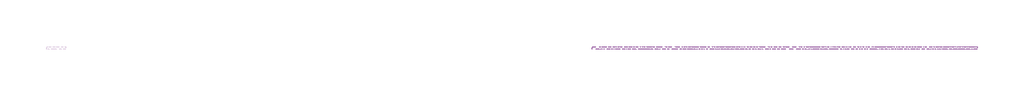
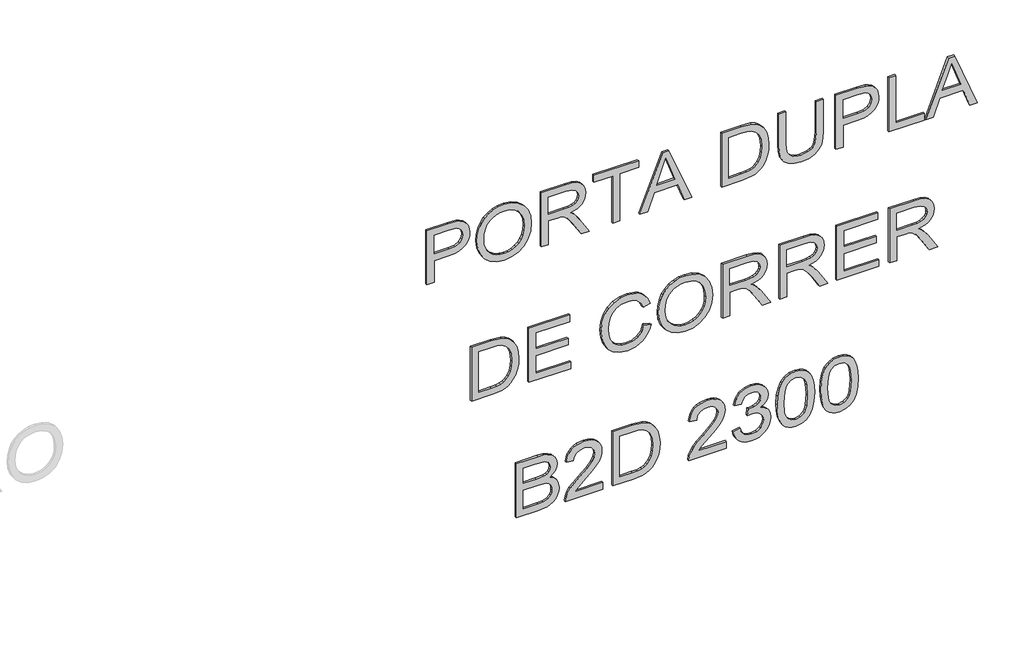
# One storey, part 8 of 13: 1 proxy.
"""IFC4 building model written with IfcOpenShell, lengths in millimetres."""

from ifc_helpers import new_model, si_unit, frame, origin, place, context, project, spatial, polyline, outline, extrude, element, save

model = new_model("IFC4")

# Units and contexts
model_context = context("Model", 3, world=origin())
ifc_project = project(units=[si_unit("LENGTHUNIT", "METRE", prefix="MILLI")], contexts=[model_context])

# Site, building, storey
site = spatial("IfcSite", under=ifc_project)
building = spatial("IfcBuilding", under=site)
storey = spatial("IfcBuildingStorey", under=building, Name="02 - Marelli - Planta Baixa - Portas", Elevation=-12000.0)

# Proxy
placement = place(None, origin())
element("IfcBuildingElementProxy", 1, Name="300mm Arial", ObjectType="300mm Arial", at=placement, inside=storey, context=model_context, shape_type="SweptSolid", body=[
    extrude(outline(polyline([(-5683.1381416, 42436.452421), (-5683.1381416, 42474.1235373), (-5560.7070137, 42474.1235373), (-5560.7070137, 42550.7165687), (-5559.0423476, 42579.9149028), (-5554.0483495, 42604.2342019), (-5545.7250194, 42623.6744661), (-5534.0723572, 42638.2356953), (-5520.0146665, 42648.8421931), (-5504.4762507, 42656.4182629), (-5487.4571099, 42660.9639049), (-5468.9572441, 42662.4791188), (-5447.5005267, 42660.2350386), (-5427.8648252, 42653.5027981), (-5411.2181649, 42643.0825406), (-5398.7285712, 42629.7744094), (-5390.0005708, 42613.2473108), (-5384.6386908, 42593.1701509), (-5381.7692112, 42548.1413947), (-5381.7692112, 42436.452421), (-5683.1381416, 42436.452421)]), holes=[polyline([(-5523.0358973, 42474.1235373), (-5419.4403275, 42474.1235373), (-5419.4403275, 42552.0409439), (-5422.0155015, 42589.7120602), (-5428.3430718, 42603.9398963), (-5439.085226, 42615.132706), (-5453.3590475, 42622.3891784), (-5470.2816192, 42624.8080025), (-5492.556874, 42620.7061183), (-5509.2035343, 42608.4004655), (-5519.5778066, 42586.3275458), (-5523.0358973, 42552.9238607), (-5523.0358973, 42474.1235373)])]), frame((0.0, 8778.3159498, 0.0), z_axis=(0.0, 1.0, 0.0), x_axis=(0.0, 0.0, 1.0)), (0.0, 0.0, 1.0), 10.0),
    extrude(outline(polyline([(-5536.426802, 42700.1502351), (-5574.971638, 42704.4544545), (-5611.4379408, 42717.3671125), (-5643.1309747, 42738.6306918), (-5667.3560041, 42767.987675), (-5682.7242744, 42803.6354404), (-5687.8470312, 42843.771366), (-5683.211718, 42881.5804381), (-5669.3057786, 42916.7223657), (-5646.3867303, 42946.6863542), (-5614.7120905, 42968.961609), (-5576.2500279, 42982.784775), (-5532.9687112, 42987.392497), (-5490.2576116, 42983.0147012), (-5452.3289779, 42969.881314), (-5420.7095204, 42948.3970055), (-5396.9259494, 42918.9664459), (-5382.0267286, 42883.5210156), (-5377.0603217, 42843.9920952), (-5379.7044735, 42813.7016115), (-5387.636929, 42786.3265925), (-5400.8576882, 42761.8670383), (-5419.3667511, 42740.322949), (-5442.5479153, 42722.7473867), (-5469.7849785, 42710.1934136), (-5501.0779408, 42702.6610297), (-5536.426802, 42700.1502351)]), holes=[polyline([(-5536.794684, 42737.8213514), (-5506.2581791, 42739.7849216), (-5480.4259653, 42745.675632), (-5459.2980424, 42755.4934828), (-5442.8744106, 42769.2384738), (-5430.5618601, 42785.7057916), (-5421.7671811, 42803.6906227), (-5416.4903738, 42823.1929669), (-5414.731438, 42844.2128244), (-5418.3826668, 42873.3766696), (-5429.3363532, 42899.5054883), (-5446.9303096, 42921.1645408), (-5470.5023484, 42936.9190872), (-5499.3259028, 42946.5208073), (-5532.6744056, 42949.7213807), (-5559.212493, 42947.8520803), (-5582.5408101, 42942.2441791), (-5602.6593567, 42932.8976772), (-5619.5681329, 42919.8125744), (-5632.9590375, 42903.830401), (-5642.5239694, 42885.7926869), (-5648.2629285, 42865.6994322), (-5650.1759149, 42843.5506368), (-5648.2813226, 42821.774322), (-5642.5975458, 42801.915592), (-5633.1245844, 42783.974447), (-5619.8624385, 42767.9508868), (-5603.3031502, 42754.7692151), (-5583.9387616, 42745.3537353), (-5561.7692729, 42739.7044474), (-5536.794684, 42737.8213514)])]), frame((0.0, 8778.3159498, 0.0), z_axis=(0.0, 1.0, 0.0), x_axis=(0.0, 0.0, 1.0)), (0.0, 0.0, 1.0), 10.0),
    extrude(outline(polyline([(-5683.1381416, 43039.1902819), (-5683.1381416, 43076.8613982), (-5551.2892346, 43076.8613982), (-5551.2892346, 43122.3316128), (-5552.6136098, 43144.1838033), (-5559.7873087, 43162.0996565), (-5579.3218426, 43182.0020724), (-5620.6717789, 43210.328986), (-5683.1381416, 43249.5452067), (-5683.1381416, 43293.3231641), (-5601.4683387, 43243.0704836), (-5562.6935764, 43212.536278), (-5546.580345, 43191.1255459), (-5536.5923489, 43228.2356422), (-5528.5771199, 43242.6175289), (-5518.547737, 43254.2173081), (-5493.9364315, 43269.5303961), (-5464.2483545, 43274.6347588), (-5440.3820101, 43271.5537471), (-5418.6677753, 43262.310712), (-5401.1565923, 43247.9081318), (-5389.8994033, 43229.3484852), (-5383.8017592, 43203.9554305), (-5381.7692112, 43169.0526262), (-5381.7692112, 43039.1902819), (-5683.1381416, 43039.1902819)]), holes=[polyline([(-5513.6181183, 43076.8613982), (-5419.4403275, 43076.8613982), (-5419.4403275, 43170.671307), (-5422.6960832, 43200.4789456), (-5432.4633501, 43221.0343521), (-5447.2706004, 43232.9813199), (-5465.6463061, 43236.9636425), (-5478.9544373, 43234.8759122), (-5491.2141048, 43228.6127212), (-5501.3492537, 43218.3304194), (-5508.2838293, 43204.1853567), (-5512.284546, 43185.3957838), (-5513.6181183, 43161.1799515), (-5513.6181183, 43076.8613982)])]), frame((0.0, 8778.3159498, 0.0), z_axis=(0.0, 1.0, 0.0), x_axis=(0.0, 0.0, 1.0)), (0.0, 0.0, 1.0), 10.0),
    extrude(outline(polyline([(-5683.1381416, 43415.9014449), (-5683.1381416, 43453.5725612), (-5419.4403275, 43453.5725612), (-5419.4403275, 43552.4592416), (-5381.7692112, 43552.4592416), (-5381.7692112, 43317.0147646), (-5419.4403275, 43317.0147646), (-5419.4403275, 43415.9014449), (-5683.1381416, 43415.9014449)])), frame((0.0, 8778.3159498, 0.0), z_axis=(0.0, 1.0, 0.0), x_axis=(0.0, 0.0, 1.0)), (0.0, 0.0, 1.0), 10.0),
    extrude(outline(polyline([(-5683.1381416, 43559.7433051), (-5683.1381416, 43599.5481369), (-5588.9603509, 43633.9818917), (-5588.9603509, 43758.1052769), (-5683.1381416, 43792.612608), (-5683.1381416, 43832.4174399), (-5381.7692112, 43712.1200275), (-5381.7692112, 43680.0407175), (-5683.1381416, 43559.7433051)]), holes=[polyline([(-5551.2892346, 43647.8142547), (-5470.7230776, 43677.3183907), (-5419.4403275, 43696.0803725), (-5477.1978007, 43717.196799), (-5551.2892346, 43744.3464902), (-5551.2892346, 43647.8142547)])]), frame((0.0, 8778.3159498, 0.0), z_axis=(0.0, 1.0, 0.0), x_axis=(0.0, 0.0, 1.0)), (0.0, 0.0, 1.0), 10.0),
    extrude(outline(polyline([(-5683.1381416, 43990.3859686), (-5683.1381416, 44099.3526156), (-5677.9877937, 44147.8026743), (-5671.6326322, 44167.3464053), (-5662.8678437, 44183.8183217), (-5651.0496346, 44198.1657195), (-5635.5342115, 44211.3358949), (-5615.8801159, 44222.777025), (-5591.6458894, 44231.9372866), (-5563.1810201, 44237.9521573), (-5530.8349956, 44239.9571141), (-5492.7592091, 44236.9956641), (-5459.171583, 44228.1113139), (-5430.6239402, 44213.2672754), (-5407.6681037, 44192.4267604), (-5394.4795341, 44172.1564624), (-5386.1102187, 44148.1337681), (-5381.7692112, 44094.3494204), (-5381.7692112, 43990.3859686), (-5683.1381416, 43990.3859686)]), holes=[polyline([(-5645.4670253, 44028.0570849), (-5419.4403275, 44028.0570849), (-5419.4403275, 44093.6872329), (-5420.9486437, 44125.435449), (-5425.4735922, 44147.1036986), (-5438.0551565, 44168.394869), (-5458.8772774, 44186.2095546), (-5489.1907538, 44198.266887), (-5530.2463845, 44202.2859978), (-5561.2312455, 44200.2350557), (-5587.2313055, 44194.0822293), (-5608.338535, 44184.250583), (-5624.6449044, 44171.163181), (-5633.4556782, 44158.986287), (-5640.0223718, 44143.2041494), (-5644.105862, 44122.290058), (-5645.4670253, 44094.7173024), (-5645.4670253, 44028.0570849)])]), frame((0.0, 8778.3159498, 0.0), z_axis=(0.0, 1.0, 0.0), x_axis=(0.0, 0.0, 1.0)), (0.0, 0.0, 1.0), 10.0),
    extrude(outline(polyline([(-5381.7692112, 44489.5282597), (-5554.3058669, 44489.5282597), (-5601.4683387, 44484.7641878), (-5618.2069695, 44478.809098), (-5630.3838635, 44470.4719723), (-5639.042886, 44459.3389434), (-5645.227902, 44444.9961441), (-5650.1759149, 44406.6812344), (-5647.6743173, 44382.5113873), (-5640.1695246, 44362.3882421), (-5628.0570099, 44346.9555924), (-5611.7322464, 44336.8572317), (-5588.1602075, 44331.2838194), (-5554.3058669, 44329.4260154), (-5381.7692112, 44329.4260154), (-5381.7692112, 44291.7548991), (-5555.6302421, 44291.7548991), (-5598.4057211, 44294.6151816), (-5631.0828393, 44303.1960291), (-5655.4458245, 44318.4631319), (-5673.2789042, 44341.3821802), (-5684.2049994, 44371.9623711), (-5687.8470312, 44410.2129015), (-5683.6623735, 44449.3187576), (-5671.1084004, 44480.1104806), (-5651.8865662, 44502.6432528), (-5627.698325, 44516.9722565), (-5596.3455819, 44524.6425961), (-5555.6302421, 44527.199376), (-5381.7692112, 44527.199376), (-5381.7692112, 44489.5282597)])), frame((0.0, 8778.3159498, 0.0), z_axis=(0.0, 1.0, 0.0), x_axis=(0.0, 0.0, 1.0)), (0.0, 0.0, 1.0), 10.0),
    extrude(outline(polyline([(-5683.1381416, 44593.1238295), (-5683.1381416, 44630.7949458), (-5560.7070137, 44630.7949458), (-5560.7070137, 44707.3879772), (-5559.0423476, 44736.5863113), (-5554.0483495, 44760.9056105), (-5545.7250194, 44780.3458746), (-5534.0723572, 44794.9071039), (-5520.0146665, 44805.5136016), (-5504.4762507, 44813.0896715), (-5487.4571099, 44817.6353134), (-5468.9572441, 44819.1505273), (-5447.5005267, 44816.9064472), (-5427.8648252, 44810.1742067), (-5411.2181649, 44799.7539491), (-5398.7285712, 44786.445818), (-5390.0005708, 44769.9187193), (-5384.6386908, 44749.8415595), (-5381.7692112, 44704.8128032), (-5381.7692112, 44593.1238295), (-5683.1381416, 44593.1238295)]), holes=[polyline([(-5523.0358973, 44630.7949458), (-5419.4403275, 44630.7949458), (-5419.4403275, 44708.7123524), (-5422.0155015, 44746.3834687), (-5428.3430718, 44760.6113049), (-5439.085226, 44771.8041146), (-5453.3590475, 44779.0605869), (-5470.2816192, 44781.479411), (-5492.556874, 44777.3775268), (-5509.2035343, 44765.0718741), (-5519.5778066, 44742.9989543), (-5523.0358973, 44709.5952692), (-5523.0358973, 44630.7949458)])]), frame((0.0, 8778.3159498, 0.0), z_axis=(0.0, 1.0, 0.0), x_axis=(0.0, 0.0, 1.0)), (0.0, 0.0, 1.0), 10.0),
    extrude(outline(polyline([(-5683.1381416, 44870.9483123), (-5683.1381416, 45059.3038938), (-5645.4670253, 45059.3038938), (-5645.4670253, 44908.6194286), (-5381.7692112, 44908.6194286), (-5381.7692112, 44870.9483123), (-5683.1381416, 44870.9483123)])), frame((0.0, 8778.3159498, 0.0), z_axis=(0.0, 1.0, 0.0), x_axis=(0.0, 0.0, 1.0)), (0.0, 0.0, 1.0), 10.0),
    extrude(outline(polyline([(-5683.1381416, 45066.5879573), (-5683.1381416, 45106.3927892), (-5588.9603509, 45140.8265439), (-5588.9603509, 45264.9499291), (-5683.1381416, 45299.4572602), (-5683.1381416, 45339.2620921), (-5381.7692112, 45218.9646797), (-5381.7692112, 45186.8853697), (-5683.1381416, 45066.5879573)]), holes=[polyline([(-5551.2892346, 45154.6589069), (-5470.7230776, 45184.163043), (-5419.4403275, 45202.9250247), (-5477.1978007, 45224.0414512), (-5551.2892346, 45251.1911425), (-5551.2892346, 45154.6589069)])]), frame((0.0, 8778.3159498, 0.0), z_axis=(0.0, 1.0, 0.0), x_axis=(0.0, 0.0, 1.0)), (0.0, 0.0, 1.0), 10.0),
    extrude(outline(polyline([(-6414.9870487, 42671.8968979), (-6414.9870487, 42780.8635449), (-6409.8367008, 42829.3136036), (-6403.4815393, 42848.8573346), (-6394.7167508, 42865.329251), (-6382.8985417, 42879.6766488), (-6367.3831185, 42892.8468242), (-6347.729023, 42904.2879542), (-6323.4947965, 42913.4482159), (-6295.0299271, 42919.4630866), (-6262.6839027, 42921.4680434), (-6224.6081162, 42918.5065934), (-6191.0204901, 42909.6222432), (-6162.4728472, 42894.7782047), (-6139.5170107, 42873.9376896), (-6126.3284412, 42853.6673917), (-6117.9591258, 42829.6446974), (-6113.6181183, 42775.8603497), (-6113.6181183, 42671.8968979), (-6414.9870487, 42671.8968979)]), holes=[polyline([(-6377.3159324, 42709.5680142), (-6151.2892346, 42709.5680142), (-6151.2892346, 42775.1981621), (-6152.7975508, 42806.9463783), (-6157.3224993, 42828.6146278), (-6169.9040635, 42849.9057983), (-6190.7261845, 42867.7204839), (-6221.0396609, 42879.7778163), (-6262.0952915, 42883.7969271), (-6293.0801526, 42881.745985), (-6319.0802126, 42875.5931586), (-6340.187442, 42865.7615123), (-6356.4938115, 42852.6741103), (-6365.3045853, 42840.4972163), (-6371.8712789, 42824.7150787), (-6375.954769, 42803.8009873), (-6377.3159324, 42776.2282317), (-6377.3159324, 42709.5680142)])]), frame((0.0, 8778.3159498, 0.0), z_axis=(0.0, 1.0, 0.0), x_axis=(0.0, 0.0, 1.0)), (0.0, 0.0, 1.0), 10.0),
    extrude(outline(polyline([(-6414.9870487, 42973.2658283), (-6414.9870487, 43194.5836366), (-6377.3159324, 43194.5836366), (-6377.3159324, 43010.9369447), (-6278.4292521, 43010.9369447), (-6278.4292521, 43180.456968), (-6240.7581358, 43180.456968), (-6240.7581358, 43010.9369447), (-6151.2892346, 43010.9369447), (-6151.2892346, 43189.8747471), (-6113.6181183, 43189.8747471), (-6113.6181183, 42973.2658283), (-6414.9870487, 42973.2658283)])), frame((0.0, 8778.3159498, 0.0), z_axis=(0.0, 1.0, 0.0), x_axis=(0.0, 0.0, 1.0)), (0.0, 0.0, 1.0), 10.0),
    extrude(outline(polyline([(-6307.8598117, 43580.7125788), (-6340.1230627, 43568.5264877), (-6363.3364166, 43548.7436334), (-6377.3527206, 43522.5412383), (-6382.024822, 43491.0965248), (-6378.5943223, 43464.1215775), (-6368.3028235, 43439.1147988), (-6351.0767491, 43418.2558897), (-6326.8425227, 43403.7245509), (-6296.7497755, 43395.1988857), (-6261.9481387, 43392.3569973), (-6233.5292546, 43394.7574273), (-6205.9564991, 43401.9587173), (-6181.5659228, 43415.0829075), (-6162.6935764, 43435.2520379), (-6150.6086529, 43461.831512), (-6146.580345, 43494.1867335), (-6150.2131797, 43522.2561297), (-6161.1116838, 43545.1016016), (-6179.956439, 43562.9438784), (-6207.428027, 43576.0036892), (-6198.4517064, 43613.6748055), (-6160.6334373, 43597.0373423), (-6145.3111522, 43585.2352281), (-6132.3801, 43571.1108587), (-6122.1115938, 43554.9309487), (-6114.7769466, 43536.9622125), (-6108.9092287, 43495.6582615), (-6113.4433743, 43457.8032042), (-6127.0458111, 43423.2590848), (-6149.3854453, 43394.1320279), (-6180.131183, 43372.5281577), (-6218.0782108, 43359.1464501), (-6262.0217151, 43354.6858809), (-6303.6843511, 43358.6314153), (-6342.5878721, 43370.4680185), (-6375.6788575, 43389.8553997), (-6399.9038869, 43416.4532679), (-6414.7479254, 43451.1537371), (-6419.6959383, 43494.8489211), (-6418.0611626, 43517.2713287), (-6413.1568358, 43537.8911145), (-6404.9829577, 43556.7082786), (-6393.5395284, 43573.7228209), (-6378.9828977, 43588.5990491), (-6361.4694155, 43601.0012708), (-6340.9990817, 43610.9294862), (-6317.5718964, 43618.3836951), (-6307.8598117, 43580.7125788)])), frame((0.0, 8778.3159498, 0.0), z_axis=(0.0, 1.0, 0.0), x_axis=(0.0, 0.0, 1.0)), (0.0, 0.0, 1.0), 10.0),
    extrude(outline(polyline([(-6268.275709, 43656.0548114), (-6306.8205451, 43660.3590307), (-6343.2868479, 43673.2716888), (-6374.9798817, 43694.5352681), (-6399.2049111, 43723.8922513), (-6414.5731815, 43759.5400166), (-6419.6959383, 43799.6759423), (-6415.0606251, 43837.4850144), (-6401.1546857, 43872.626942), (-6378.2356374, 43902.5909305), (-6346.5609976, 43924.8661853), (-6308.098935, 43938.6893512), (-6264.8176183, 43943.2970732), (-6222.1065186, 43938.9192775), (-6184.1778849, 43925.7858903), (-6152.5584275, 43904.3015817), (-6128.7748565, 43874.8710221), (-6113.8756357, 43839.4255919), (-6108.9092287, 43799.8966715), (-6111.5533806, 43769.6061877), (-6119.4858361, 43742.2311688), (-6132.7065953, 43717.7716146), (-6151.2156582, 43696.2275253), (-6174.3968224, 43678.6519629), (-6201.6338856, 43666.0979899), (-6232.9268478, 43658.565606), (-6268.275709, 43656.0548114)]), holes=[polyline([(-6268.643591, 43693.7259277), (-6238.1070862, 43695.6894978), (-6212.2748723, 43701.5802083), (-6191.1469495, 43711.398059), (-6174.7233177, 43725.1430501), (-6162.4107671, 43741.6103679), (-6153.6160882, 43759.5951989), (-6148.3392808, 43779.0975432), (-6146.580345, 43800.1174007), (-6150.2315738, 43829.2812459), (-6161.1852602, 43855.4100646), (-6178.7792167, 43877.069117), (-6202.3512555, 43892.8236635), (-6231.1748098, 43902.4253836), (-6264.5233127, 43905.6259569), (-6291.0614001, 43903.7566565), (-6314.3897171, 43898.1487554), (-6334.5082637, 43888.8022534), (-6351.41704, 43875.7171507), (-6364.8079446, 43859.7349773), (-6374.3728765, 43841.6972632), (-6380.1118356, 43821.6040085), (-6382.024822, 43799.4552131), (-6380.1302297, 43777.6788983), (-6374.4464529, 43757.8201683), (-6364.9734915, 43739.8790233), (-6351.7113455, 43723.8554631), (-6335.1520572, 43710.6737914), (-6315.7876687, 43701.2583116), (-6293.61818, 43695.6090237), (-6268.643591, 43693.7259277)])]), frame((0.0, 8778.3159498, 0.0), z_axis=(0.0, 1.0, 0.0), x_axis=(0.0, 0.0, 1.0)), (0.0, 0.0, 1.0), 10.0),
    extrude(outline(polyline([(-6414.9870487, 43995.0948581), (-6414.9870487, 44032.7659745), (-6283.1381416, 44032.7659745), (-6283.1381416, 44078.2361891), (-6284.4625168, 44100.0883796), (-6291.6362157, 44118.0042327), (-6311.1707497, 44137.9066487), (-6352.5206859, 44166.2335623), (-6414.9870487, 44205.449783), (-6414.9870487, 44249.2277404), (-6333.3172458, 44198.9750599), (-6294.5424835, 44168.4408543), (-6278.4292521, 44147.0301222), (-6268.4412559, 44184.1402184), (-6260.426027, 44198.5221052), (-6250.3966441, 44210.1218843), (-6225.7853386, 44225.4349724), (-6196.0972616, 44230.5393351), (-6172.2309172, 44227.4583234), (-6150.5166824, 44218.2152882), (-6133.0054994, 44203.8127081), (-6121.7483104, 44185.2530615), (-6115.6506663, 44159.8600067), (-6113.6181183, 44124.9572024), (-6113.6181183, 43995.0948581), (-6414.9870487, 43995.0948581)]), holes=[polyline([(-6245.4670253, 44032.7659745), (-6151.2892346, 44032.7659745), (-6151.2892346, 44126.5758832), (-6154.5449902, 44156.3835219), (-6164.3122572, 44176.9389284), (-6179.1195075, 44188.8858962), (-6197.4952132, 44192.8682188), (-6210.8033443, 44190.7804884), (-6223.0630118, 44184.5172975), (-6233.1981608, 44174.2349957), (-6240.1327364, 44160.089933), (-6244.1334531, 44141.3003601), (-6245.4670253, 44117.0845277), (-6245.4670253, 44032.7659745)])]), frame((0.0, 8778.3159498, 0.0), z_axis=(0.0, 1.0, 0.0), x_axis=(0.0, 0.0, 1.0)), (0.0, 0.0, 1.0), 10.0),
    extrude(outline(polyline([(-6414.9870487, 44296.4637886), (-6414.9870487, 44334.1349049), (-6283.1381416, 44334.1349049), (-6283.1381416, 44379.6051195), (-6284.4625168, 44401.45731), (-6291.6362157, 44419.3731632), (-6311.1707497, 44439.2755791), (-6352.5206859, 44467.6024928), (-6414.9870487, 44506.8187134), (-6414.9870487, 44550.5966709), (-6333.3172458, 44500.3439903), (-6294.5424835, 44469.8097847), (-6278.4292521, 44448.3990526), (-6268.4412559, 44485.5091489), (-6260.426027, 44499.8910356), (-6250.3966441, 44511.4908148), (-6225.7853386, 44526.8039028), (-6196.0972616, 44531.9082655), (-6172.2309172, 44528.8272538), (-6150.5166824, 44519.5842187), (-6133.0054994, 44505.1816386), (-6121.7483104, 44486.6219919), (-6115.6506663, 44461.2289372), (-6113.6181183, 44426.3261329), (-6113.6181183, 44296.4637886), (-6414.9870487, 44296.4637886)]), holes=[polyline([(-6245.4670253, 44334.1349049), (-6151.2892346, 44334.1349049), (-6151.2892346, 44427.9448137), (-6154.5449902, 44457.7524523), (-6164.3122572, 44478.3078588), (-6179.1195075, 44490.2548266), (-6197.4952132, 44494.2371492), (-6210.8033443, 44492.1494189), (-6223.0630118, 44485.8862279), (-6233.1981608, 44475.6039261), (-6240.1327364, 44461.4588634), (-6244.1334531, 44442.6692905), (-6245.4670253, 44418.4534582), (-6245.4670253, 44334.1349049)])]), frame((0.0, 8778.3159498, 0.0), z_axis=(0.0, 1.0, 0.0), x_axis=(0.0, 0.0, 1.0)), (0.0, 0.0, 1.0), 10.0),
    extrude(outline(polyline([(-6414.9870487, 44597.832719), (-6414.9870487, 44819.1505273), (-6377.3159324, 44819.1505273), (-6377.3159324, 44635.5038354), (-6278.4292521, 44635.5038354), (-6278.4292521, 44805.0238587), (-6240.7581358, 44805.0238587), (-6240.7581358, 44635.5038354), (-6151.2892346, 44635.5038354), (-6151.2892346, 44814.4416378), (-6113.6181183, 44814.4416378), (-6113.6181183, 44597.832719), (-6414.9870487, 44597.832719)])), frame((0.0, 8778.3159498, 0.0), z_axis=(0.0, 1.0, 0.0), x_axis=(0.0, 0.0, 1.0)), (0.0, 0.0, 1.0), 10.0),
    extrude(outline(polyline([(-6414.9870487, 44875.6572018), (-6414.9870487, 44913.3283181), (-6283.1381416, 44913.3283181), (-6283.1381416, 44958.7985327), (-6284.4625168, 44980.6507232), (-6291.6362157, 44998.5665764), (-6311.1707497, 45018.4689923), (-6352.5206859, 45046.795906), (-6414.9870487, 45086.0121266), (-6414.9870487, 45129.7900841), (-6333.3172458, 45079.5374035), (-6294.5424835, 45049.0031979), (-6278.4292521, 45027.5924658), (-6268.4412559, 45064.7025621), (-6260.426027, 45079.0844488), (-6250.3966441, 45090.684228), (-6225.7853386, 45105.997316), (-6196.0972616, 45111.1016787), (-6172.2309172, 45108.020667), (-6150.5166824, 45098.7776319), (-6133.0054994, 45084.3750518), (-6121.7483104, 45065.8154051), (-6115.6506663, 45040.4223504), (-6113.6181183, 45005.5195461), (-6113.6181183, 44875.6572018), (-6414.9870487, 44875.6572018)]), holes=[polyline([(-6245.4670253, 44913.3283181), (-6151.2892346, 44913.3283181), (-6151.2892346, 45007.1382269), (-6154.5449902, 45036.9458655), (-6164.3122572, 45057.501272), (-6179.1195075, 45069.4482398), (-6197.4952132, 45073.4305624), (-6210.8033443, 45071.3428321), (-6223.0630118, 45065.0796411), (-6233.1981608, 45054.7973394), (-6240.1327364, 45040.6522766), (-6244.1334531, 45021.8627037), (-6245.4670253, 44997.6468714), (-6245.4670253, 44913.3283181)])]), frame((0.0, 8778.3159498, 0.0), z_axis=(0.0, 1.0, 0.0), x_axis=(0.0, 0.0, 1.0)), (0.0, 0.0, 1.0), 10.0),
    extrude(outline(polyline([(-7146.8359558, 42907.3413748), (-7146.8359558, 43021.4583697), (-7141.6488197, 43069.7612757), (-7135.2292788, 43087.7966905), (-7126.3449287, 43102.5395614), (-7114.0760641, 43114.5784997), (-7097.5029802, 43124.5021166), (-7078.0144315, 43131.1515836), (-7056.9991726, 43133.3680726), (-7031.7808618, 43130.121514), (-7010.1310064, 43120.3818382), (-6993.1716464, 43104.6088977), (-6982.024822, 43083.2625449), (-6970.2801893, 43101.1324128), (-6955.3533773, 43113.8335387), (-6938.2928498, 43121.4211049), (-6920.1470704, 43123.9502936), (-6900.4285954, 43120.9428583), (-6881.5930373, 43111.9205523), (-6865.5809734, 43097.5915486), (-6854.3329814, 43078.66402), (-6847.6835144, 43053.969941), (-6845.4670253, 43022.3412865), (-6845.4670253, 42907.3413748), (-7146.8359558, 42907.3413748)]), holes=[polyline([(-6967.8981533, 42945.0124911), (-6883.1381416, 42945.0124911), (-6883.1381416, 43008.5824999), (-6887.074479, 43056.9957704), (-6892.6754824, 43069.4853642), (-6901.6058178, 43078.7008082), (-6913.0469479, 43084.384585), (-6926.1803351, 43086.2791773), (-6939.7091955, 43084.2466292), (-6950.7180642, 43078.1489852), (-6959.0781825, 43068.0414274), (-6964.6607918, 43053.9791381), (-6967.8981533, 43013.8064242), (-6967.8981533, 42945.0124911)]), polyline([(-7109.1648395, 42945.0124911), (-7005.5692696, 42945.0124911), (-7005.5692696, 43018.5888902), (-7006.8292655, 43045.4166846), (-7010.609253, 43065.1259625), (-7017.4978433, 43079.041099), (-7028.0836477, 43088.4864692), (-7041.6217052, 43093.8943346), (-7057.3670546, 43095.6969563), (-7070.9235061, 43094.161049), (-7082.7509122, 43089.553327), (-7099.489543, 43073.881554), (-7107.6933115, 43050.2267417), (-7109.1648395, 43022.2677101), (-7109.1648395, 42945.0124911)])]), frame((0.0, 8778.3159498, 0.0), z_axis=(0.0, 1.0, 0.0), x_axis=(0.0, 0.0, 1.0)), (0.0, 0.0, 1.0), 10.0),
    extrude(outline(polyline([(-7109.1648395, 43364.10366), (-7109.1648395, 43216.1415216), (-7089.9981875, 43233.1376697), (-7053.761811, 43276.4741688), (-7024.7451186, 43309.1696811), (-7002.1479671, 43330.4424575), (-6983.2204384, 43343.7873768), (-6965.2126148, 43352.6993182), (-6947.5082938, 43357.7209074), (-6929.491273, 43359.3947705), (-6912.338775, 43357.8427683), (-6896.6394109, 43353.1867618), (-6882.3931806, 43345.426751), (-6869.6000842, 43334.5627358), (-6859.041871, 43321.0361747), (-6851.5002901, 43305.288526), (-6846.9753415, 43287.3197898), (-6845.4670253, 43267.1299661), (-6850.8932848, 43229.2473176), (-6857.6761091, 43213.5134646), (-6867.1720631, 43199.9179256), (-6879.2523881, 43188.7182181), (-6893.7883254, 43180.1718595), (-6930.227037, 43171.039189), (-6934.9359266, 43208.7103053), (-6913.2860712, 43212.7845984), (-6896.8969283, 43224.5660192), (-6886.5778383, 43242.8221633), (-6883.1381416, 43266.3206257), (-6886.6606118, 43288.6970481), (-6897.2280221, 43306.382975), (-6912.9089921, 43317.8884844), (-6931.7721414, 43321.7236542), (-6952.8149915, 43317.6585581), (-6974.4464529, 43305.46327), (-7001.0995034, 43281.0726937), (-7037.2071212, 43240.4217332), (-7060.2641253, 43212.9225541), (-7080.8747141, 43193.2592615), (-7100.5655978, 43179.6660217), (-7120.8634869, 43170.3770014), (-7146.8359558, 43166.3302994), (-7146.8359558, 43364.10366), (-7109.1648395, 43364.10366)])), frame((0.0, 8778.3159498, 0.0), z_axis=(0.0, 1.0, 0.0), x_axis=(0.0, 0.0, 1.0)), (0.0, 0.0, 1.0), 10.0),
    extrude(outline(polyline([(-7146.8359558, 43415.9014449), (-7146.8359558, 43524.8680919), (-7141.6856079, 43573.3181507), (-7135.3304464, 43592.8618817), (-7126.5656579, 43609.333798), (-7114.7474488, 43623.6811958), (-7099.2320256, 43636.8513712), (-7079.57793, 43648.2925013), (-7055.3437036, 43657.452763), (-7026.8788342, 43663.4676336), (-6994.5328098, 43665.4725905), (-6956.4570233, 43662.5111404), (-6922.8693971, 43653.6267902), (-6894.3217543, 43638.7827517), (-6871.3659178, 43617.9422367), (-6858.1773483, 43597.6719388), (-6849.8080329, 43573.6492445), (-6845.4670253, 43519.8648968), (-6845.4670253, 43415.9014449), (-7146.8359558, 43415.9014449)]), holes=[polyline([(-7109.1648395, 43453.5725612), (-6883.1381416, 43453.5725612), (-6883.1381416, 43519.2027092), (-6884.6464578, 43550.9509254), (-6889.1714064, 43572.6191749), (-6901.7529706, 43593.9103454), (-6922.5750915, 43611.725031), (-6952.8885679, 43623.7823634), (-6993.9441986, 43627.8014742), (-7024.9290596, 43625.750532), (-7050.9291196, 43619.5977057), (-7072.0363491, 43609.7660593), (-7088.3427186, 43596.6786574), (-7097.1534923, 43584.5017633), (-7103.720186, 43568.7196257), (-7107.8036761, 43547.8055343), (-7109.1648395, 43520.2327788), (-7109.1648395, 43453.5725612)])]), frame((0.0, 8778.3159498, 0.0), z_axis=(0.0, 1.0, 0.0), x_axis=(0.0, 0.0, 1.0)), (0.0, 0.0, 1.0), 10.0),
    extrude(outline(polyline([(-7109.1648395, 44013.9304163), (-7109.1648395, 43865.9682778), (-7089.9981875, 43882.964426), (-7053.761811, 43926.300925), (-7024.7451186, 43958.9964374), (-7002.1479671, 43980.2692137), (-6983.2204384, 43993.6141331), (-6965.2126148, 44002.5260745), (-6947.5082938, 44007.5476637), (-6929.491273, 44009.2215268), (-6912.338775, 44007.6695246), (-6896.6394109, 44003.0135181), (-6882.3931806, 43995.2535073), (-6869.6000842, 43984.3894921), (-6859.041871, 43970.862931), (-6851.5002901, 43955.1152823), (-6846.9753415, 43937.1465461), (-6845.4670253, 43916.9567224), (-6850.8932848, 43879.0740739), (-6857.6761091, 43863.3402208), (-6867.1720631, 43849.7446819), (-6879.2523881, 43838.5449744), (-6893.7883254, 43829.9986158), (-6930.227037, 43820.8659452), (-6934.9359266, 43858.5370615), (-6913.2860712, 43862.6113546), (-6896.8969283, 43874.3927755), (-6886.5778383, 43892.6489195), (-6883.1381416, 43916.147382), (-6886.6606118, 43938.5238043), (-6897.2280221, 43956.2097313), (-6912.9089921, 43967.7152407), (-6931.7721414, 43971.5504105), (-6952.8149915, 43967.4853144), (-6974.4464529, 43955.2900263), (-7001.0995034, 43930.89945), (-7037.2071212, 43890.2484895), (-7060.2641253, 43862.7493104), (-7080.8747141, 43843.0860177), (-7100.5655978, 43829.492778), (-7120.8634869, 43820.2037576), (-7146.8359558, 43816.1570557), (-7146.8359558, 44013.9304163), (-7109.1648395, 44013.9304163)])), frame((0.0, 8778.3159498, 0.0), z_axis=(0.0, 1.0, 0.0), x_axis=(0.0, 0.0, 1.0)), (0.0, 0.0, 1.0), 10.0),
    extrude(outline(polyline([(-7066.7848336, 44051.6015326), (-7084.6776942, 44054.8526897), (-7100.8323123, 44060.9273412), (-7115.248688, 44069.8254869), (-7127.9268212, 44081.547127), (-7138.2597068, 44095.5266428), (-7145.6403393, 44111.1984158), (-7150.0687188, 44128.562446), (-7151.5448453, 44147.6187333), (-7149.8158, 44168.7029702), (-7144.6286638, 44187.8834177), (-7135.9834369, 44205.1600759), (-7123.8801193, 44220.5329448), (-7109.2935982, 44233.1512972), (-7093.1987609, 44242.1644061), (-7075.5956074, 44247.5722714), (-7056.4841378, 44249.3748932), (-7029.5183875, 44245.7696497), (-7007.482256, 44234.953919), (-6991.25866, 44217.4795242), (-6981.7305164, 44193.8982883), (-6970.8596034, 44211.8509297), (-6956.7881171, 44224.8003759), (-6940.2702155, 44232.6362624), (-6922.0600567, 44235.2482246), (-6902.5163257, 44232.4983067), (-6884.0578466, 44224.2485529), (-6868.0365857, 44210.802466), (-6855.8045094, 44192.4635486), (-6848.0513964, 44170.7125256), (-6845.4670253, 44147.0301222), (-6850.7093438, 44114.1414718), (-6866.4362991, 44087.1389333), (-6891.691398, 44067.4020643), (-6925.5181475, 44056.3104221), (-6930.227037, 44093.9815385), (-6909.6256453, 44100.6585967), (-6894.9103655, 44112.4492146), (-6886.0811976, 44128.5992342), (-6883.1381416, 44148.3544973), (-6886.0536065, 44168.0729723), (-6894.8000009, 44183.8183217), (-6907.9977675, 44194.1374116), (-6924.2673487, 44197.5771083), (-6943.8018827, 44192.8314306), (-6957.5238811, 44178.5943973), (-6965.6356791, 44158.4160699), (-6968.3396117, 44135.8465095), (-6967.8981533, 44129.8132448), (-7005.5692696, 44125.61939), (-7001.4489913, 44152.0333173), (-7005.3025552, 44175.7249178), (-7016.8632469, 44194.8547815), (-7034.3100505, 44207.4915281), (-7055.8219502, 44211.7037769), (-7078.4834811, 44207.4547399), (-7097.1718864, 44194.7076287), (-7109.6982684, 44174.7684246), (-7113.873729, 44148.9431085), (-7110.8387026, 44126.9345682), (-7101.7336232, 44110.0579816), (-7085.7491505, 44097.7063437), (-7062.0759441, 44089.2726489), (-7066.7848336, 44051.6015326)])), frame((0.0, 8778.3159498, 0.0), z_axis=(0.0, 1.0, 0.0), x_axis=(0.0, 0.0, 1.0)), (0.0, 0.0, 1.0), 10.0),
    extrude(outline(polyline([(-6998.5795117, 44282.33712), (-7038.0210601, 44284.2133182), (-7071.8799993, 44289.8419127), (-7100.1563291, 44299.2229036), (-7122.8500497, 44312.3562908), (-7135.4040228, 44326.041501), (-7144.3711464, 44342.081156), (-7149.7514206, 44360.4752558), (-7151.5448453, 44381.2238003), (-7147.4153699, 44411.6752324), (-7135.0269437, 44436.3693114), (-7114.241611, 44455.471584), (-7084.921416, 44469.1475971), (-7046.5421269, 44477.3697597), (-6998.5795117, 44480.1104806), (-6958.61833, 44478.3998293), (-6927.7622277, 44473.2678755), (-6903.4636219, 44465.431989), (-6883.1749298, 44455.6095397), (-6867.0341073, 44442.6049112), (-6855.17911, 44425.2224869), (-6847.8950465, 44404.4371542), (-6845.4670253, 44381.2238003), (-6849.5689096, 44350.937915), (-6861.8745623, 44326.2990184), (-6882.5771216, 44307.1691547), (-6911.8697255, 44293.410368), (-6950.3409851, 44285.105432), (-6998.5795117, 44282.33712)]), holes=[polyline([(-6998.5059353, 44320.0082363), (-6940.0126981, 44324.569973), (-6918.9330598, 44330.272144), (-6903.298075, 44338.2551832), (-6888.178125, 44357.201106), (-6883.1381416, 44380.7823419), (-6888.8587067, 44405.687953), (-6906.0204017, 44425.3696397), (-6920.3815951, 44432.8376442), (-6940.5829152, 44438.1719331), (-6998.5059353, 44442.4393643), (-7057.6705572, 44438.0247803), (-7077.9339574, 44432.5065504), (-7091.9847503, 44424.7810285), (-7108.4014843, 44405.0625536), (-7113.873729, 44381.2238003), (-7108.4198784, 44357.385047), (-7092.0583267, 44337.6665721), (-7078.0305264, 44329.9410502), (-7057.7625277, 44324.4228202), (-6998.5059353, 44320.0082363)])]), frame((0.0, 8778.3159498, 0.0), z_axis=(0.0, 1.0, 0.0), x_axis=(0.0, 0.0, 1.0)), (0.0, 0.0, 1.0), 10.0),
    extrude(outline(polyline([(-6998.5795117, 44513.0727074), (-7038.0210601, 44514.9489055), (-7071.8799993, 44520.5775001), (-7100.1563291, 44529.9584909), (-7122.8500497, 44543.0918782), (-7135.4040228, 44556.7770884), (-7144.3711464, 44572.8167434), (-7149.7514206, 44591.2108431), (-7151.5448453, 44611.9593877), (-7147.4153699, 44642.4108198), (-7135.0269437, 44667.1048987), (-7114.241611, 44686.2071713), (-7084.921416, 44699.8831845), (-7046.5421269, 44708.1053471), (-6998.5795117, 44710.846068), (-6958.61833, 44709.1354167), (-6927.7622277, 44704.0034629), (-6903.4636219, 44696.1675764), (-6883.1749298, 44686.3451271), (-6867.0341073, 44673.3404986), (-6855.17911, 44655.9580743), (-6847.8950465, 44635.1727416), (-6845.4670253, 44611.9593877), (-6849.5689096, 44581.6735024), (-6861.8745623, 44557.0346058), (-6882.5771216, 44537.904742), (-6911.8697255, 44524.1459554), (-6950.3409851, 44515.8410194), (-6998.5795117, 44513.0727074)]), holes=[polyline([(-6998.5059353, 44550.7438237), (-6940.0126981, 44555.3055604), (-6918.9330598, 44561.0077313), (-6903.298075, 44568.9907706), (-6888.178125, 44587.9366934), (-6883.1381416, 44611.5179293), (-6888.8587067, 44636.4235403), (-6906.0204017, 44656.1052271), (-6920.3815951, 44663.5732316), (-6940.5829152, 44668.9075205), (-6998.5059353, 44673.1749517), (-7057.6705572, 44668.7603677), (-7077.9339574, 44663.2421378), (-7091.9847503, 44655.5166159), (-7108.4014843, 44635.7981409), (-7113.873729, 44611.9593877), (-7108.4198784, 44588.1206344), (-7092.0583267, 44568.4021594), (-7078.0305264, 44560.6766375), (-7057.7625277, 44555.1584076), (-6998.5059353, 44550.7438237)])]), frame((0.0, 8778.3159498, 0.0), z_axis=(0.0, 1.0, 0.0), x_axis=(0.0, 0.0, 1.0)), (0.0, 0.0, 1.0), 10.0),
])

save(model, "model.ifc")
